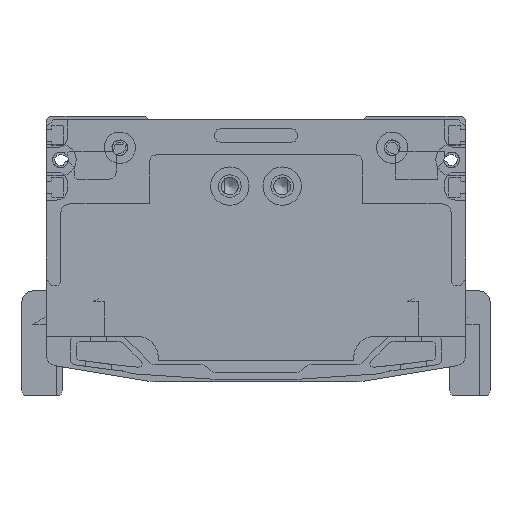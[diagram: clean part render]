
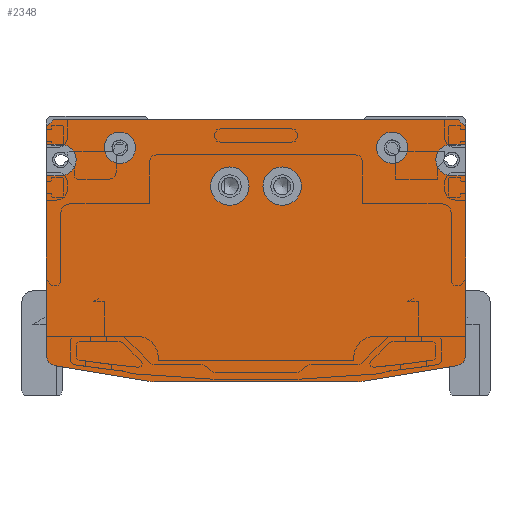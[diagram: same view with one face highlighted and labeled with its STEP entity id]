
A CAD part, front view. The second image highlights one B-rep face of the part: STEP entity #2348.
In plain terms, the highlighted planar face has unit normal (0, -1, 0).
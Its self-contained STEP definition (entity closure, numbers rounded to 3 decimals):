
#1226=FACE_BOUND('',#4446,.T.);
#1227=FACE_BOUND('',#4447,.T.);
#1228=FACE_BOUND('',#4448,.T.);
#1229=FACE_BOUND('',#4449,.T.);
#1230=FACE_BOUND('',#4450,.T.);
#2348=ADVANCED_FACE('',(#1226,#1227,#1228,#1229,#1230),#3084,.F.);
#3084=PLANE('',#18434);
#4446=EDGE_LOOP('',(#10134));
#4447=EDGE_LOOP('',(#10135));
#4448=EDGE_LOOP('',(#10136,#10137,#10138,#10139,#10140,#10141,#10142,#10143,
#10144,#10145,#10146,#10147,#10148,#10149,#10150,#10151,#10152,#10153,#10154,
#10155));
#4449=EDGE_LOOP('',(#10156));
#4450=EDGE_LOOP('',(#10157));
#5707=LINE('',#27159,#6874);
#5711=LINE('',#27167,#6878);
#5842=LINE('',#28103,#7009);
#5867=LINE('',#28151,#7034);
#5871=LINE('',#28159,#7038);
#6045=LINE('',#29306,#7212);
#6047=LINE('',#29309,#7214);
#6051=LINE('',#29316,#7218);
#6054=LINE('',#29325,#7221);
#6067=LINE('',#29360,#7234);
#6072=LINE('',#29374,#7239);
#6076=LINE('',#29386,#7243);
#6098=LINE('',#29448,#7265);
#6101=LINE('',#29457,#7268);
#6874=VECTOR('',#20797,1.);
#6878=VECTOR('',#20801,1.);
#7009=VECTOR('',#21242,1.);
#7034=VECTOR('',#21281,1.);
#7038=VECTOR('',#21285,1.);
#7212=VECTOR('',#22045,1.);
#7214=VECTOR('',#22049,1.);
#7218=VECTOR('',#22055,1.);
#7221=VECTOR('',#22066,1.);
#7234=VECTOR('',#22099,1.);
#7239=VECTOR('',#22112,1.);
#7243=VECTOR('',#22124,1.);
#7265=VECTOR('',#22200,1.);
#7268=VECTOR('',#22211,1.);
#10134=ORIENTED_EDGE('',*,*,#15570,.T.);
#10135=ORIENTED_EDGE('',*,*,#15574,.T.);
#10136=ORIENTED_EDGE('',*,*,#15635,.T.);
#10137=ORIENTED_EDGE('',*,*,#15631,.F.);
#10138=ORIENTED_EDGE('',*,*,#15629,.F.);
#10139=ORIENTED_EDGE('',*,*,#15626,.F.);
#10140=ORIENTED_EDGE('',*,*,#15622,.T.);
#10141=ORIENTED_EDGE('',*,*,#15619,.T.);
#10142=ORIENTED_EDGE('',*,*,#15276,.F.);
#10143=ORIENTED_EDGE('',*,*,#15605,.T.);
#10144=ORIENTED_EDGE('',*,*,#15602,.T.);
#10145=ORIENTED_EDGE('',*,*,#15600,.F.);
#10146=ORIENTED_EDGE('',*,*,#15272,.F.);
#10147=ORIENTED_EDGE('',*,*,#15596,.T.);
#10148=ORIENTED_EDGE('',*,*,#15247,.F.);
#10149=ORIENTED_EDGE('',*,*,#15594,.T.);
#10150=ORIENTED_EDGE('',*,*,#14983,.F.);
#10151=ORIENTED_EDGE('',*,*,#15670,.T.);
#10152=ORIENTED_EDGE('',*,*,#15667,.T.);
#10153=ORIENTED_EDGE('',*,*,#15665,.F.);
#10154=ORIENTED_EDGE('',*,*,#14979,.F.);
#10155=ORIENTED_EDGE('',*,*,#15638,.T.);
#10156=ORIENTED_EDGE('',*,*,#15581,.F.);
#10157=ORIENTED_EDGE('',*,*,#15577,.F.);
#13084=VERTEX_POINT('',#27158);
#13085=VERTEX_POINT('',#27160);
#13088=VERTEX_POINT('',#27166);
#13089=VERTEX_POINT('',#27168);
#13218=VERTEX_POINT('',#28102);
#13219=VERTEX_POINT('',#28104);
#13234=VERTEX_POINT('',#28150);
#13235=VERTEX_POINT('',#28152);
#13238=VERTEX_POINT('',#28158);
#13239=VERTEX_POINT('',#28160);
#13438=VERTEX_POINT('',#29249);
#13442=VERTEX_POINT('',#29260);
#13445=VERTEX_POINT('',#29269);
#13448=VERTEX_POINT('',#29279);
#13456=VERTEX_POINT('',#29314);
#13458=VERTEX_POINT('',#29321);
#13469=VERTEX_POINT('',#29355);
#13471=VERTEX_POINT('',#29361);
#13474=VERTEX_POINT('',#29369);
#13476=VERTEX_POINT('',#29375);
#13477=VERTEX_POINT('',#29379);
#13480=VERTEX_POINT('',#29387);
#13492=VERTEX_POINT('',#29446);
#13494=VERTEX_POINT('',#29453);
#14979=EDGE_CURVE('',#13084,#13085,#5707,.T.);
#14983=EDGE_CURVE('',#13088,#13089,#5711,.T.);
#15247=EDGE_CURVE('',#13218,#13219,#5842,.T.);
#15272=EDGE_CURVE('',#13234,#13235,#5867,.T.);
#15276=EDGE_CURVE('',#13238,#13239,#5871,.T.);
#15570=EDGE_CURVE('',#13438,#13438,#16956,.T.);
#15574=EDGE_CURVE('',#13442,#13442,#16960,.T.);
#15577=EDGE_CURVE('',#13445,#13445,#16963,.T.);
#15581=EDGE_CURVE('',#13448,#13448,#16967,.T.);
#15594=EDGE_CURVE('',#13218,#13089,#6045,.T.);
#15596=EDGE_CURVE('',#13234,#13219,#6047,.T.);
#15600=EDGE_CURVE('',#13235,#13456,#6051,.T.);
#15602=EDGE_CURVE('',#13458,#13456,#16974,.T.);
#15605=EDGE_CURVE('',#13238,#13458,#6054,.T.);
#15619=EDGE_CURVE('',#13469,#13239,#16977,.T.);
#15622=EDGE_CURVE('',#13471,#13469,#6067,.T.);
#15626=EDGE_CURVE('',#13471,#13474,#16980,.T.);
#15629=EDGE_CURVE('',#13474,#13476,#6072,.T.);
#15631=EDGE_CURVE('',#13476,#13477,#16981,.T.);
#15635=EDGE_CURVE('',#13480,#13477,#6076,.T.);
#15638=EDGE_CURVE('',#13084,#13480,#16984,.T.);
#15665=EDGE_CURVE('',#13085,#13492,#6098,.T.);
#15667=EDGE_CURVE('',#13494,#13492,#16992,.T.);
#15670=EDGE_CURVE('',#13088,#13494,#6101,.T.);
#16956=CIRCLE('',#18335,5.5);
#16960=CIRCLE('',#18342,5.5);
#16963=CIRCLE('',#18348,4.5);
#16967=CIRCLE('',#18355,4.5);
#16974=CIRCLE('',#18373,4.5);
#16977=CIRCLE('',#18382,3.);
#16980=CIRCLE('',#18387,10.);
#16981=CIRCLE('',#18390,10.);
#16984=CIRCLE('',#18395,3.);
#16992=CIRCLE('',#18422,4.5);
#18335=AXIS2_PLACEMENT_3D('',#29248,#21970,#21971);
#18342=AXIS2_PLACEMENT_3D('',#29259,#21984,#21985);
#18348=AXIS2_PLACEMENT_3D('',#29268,#21996,#21997);
#18355=AXIS2_PLACEMENT_3D('',#29278,#22010,#22011);
#18373=AXIS2_PLACEMENT_3D('',#29320,#22060,#22061);
#18382=AXIS2_PLACEMENT_3D('',#29354,#22092,#22093);
#18387=AXIS2_PLACEMENT_3D('',#29368,#22106,#22107);
#18390=AXIS2_PLACEMENT_3D('',#29378,#22116,#22117);
#18395=AXIS2_PLACEMENT_3D('',#29391,#22130,#22131);
#18422=AXIS2_PLACEMENT_3D('',#29452,#22205,#22206);
#18434=AXIS2_PLACEMENT_3D('',#29474,#22236,#22237);
#20797=DIRECTION('',(0.,0.,1.));
#20801=DIRECTION('',(0.,0.,1.));
#21242=DIRECTION('',(1.,0.,0.));
#21281=DIRECTION('',(0.,0.,-1.));
#21285=DIRECTION('',(0.,0.,-1.));
#21970=DIRECTION('',(0.,1.,0.));
#21971=DIRECTION('',(1.,0.,0.));
#21984=DIRECTION('',(0.,1.,0.));
#21985=DIRECTION('',(1.,0.,0.));
#21996=DIRECTION('',(0.,-1.,0.));
#21997=DIRECTION('',(1.,0.,0.));
#22010=DIRECTION('',(0.,-1.,0.));
#22011=DIRECTION('',(1.,0.,0.));
#22045=DIRECTION('',(-0.707,0.,-0.707));
#22049=DIRECTION('',(-0.707,0.,0.707));
#22055=DIRECTION('',(-1.,0.,0.));
#22060=DIRECTION('',(0.,1.,0.));
#22061=DIRECTION('',(0.,0.,-1.));
#22066=DIRECTION('',(-1.,0.,0.));
#22092=DIRECTION('',(0.,-1.,0.));
#22093=DIRECTION('',(0.164,0.,-0.986));
#22099=DIRECTION('',(0.986,0.,0.164));
#22106=DIRECTION('',(0.,1.,0.));
#22107=DIRECTION('',(0.164,0.,-0.986));
#22112=DIRECTION('',(-1.,0.,0.));
#22116=DIRECTION('',(0.,1.,0.));
#22117=DIRECTION('',(0.,0.,-1.));
#22124=DIRECTION('',(0.986,0.,-0.164));
#22130=DIRECTION('',(0.,-1.,0.));
#22131=DIRECTION('',(-1.,0.,0.));
#22200=DIRECTION('',(1.,0.,0.));
#22205=DIRECTION('',(0.,1.,0.));
#22206=DIRECTION('',(0.,0.,1.));
#22211=DIRECTION('',(1.,0.,0.));
#22236=DIRECTION('',(0.,1.,0.));
#22237=DIRECTION('',(-1.,0.,0.));
#27158=CARTESIAN_POINT('',(-60.,-2612.,-69.459));
#27159=CARTESIAN_POINT('',(-60.,-2612.,-69.459));
#27160=CARTESIAN_POINT('',(-60.,-2612.,-18.));
#27166=CARTESIAN_POINT('',(-60.,-2612.,-9.));
#27167=CARTESIAN_POINT('',(-60.,-2612.,-9.));
#27168=CARTESIAN_POINT('',(-60.,-2612.,-4.));
#28102=CARTESIAN_POINT('',(-58.,-2612.,-2.));
#28103=CARTESIAN_POINT('',(-58.,-2612.,-2.));
#28104=CARTESIAN_POINT('',(58.,-2612.,-2.));
#28150=CARTESIAN_POINT('',(60.,-2612.,-4.));
#28151=CARTESIAN_POINT('',(60.,-2612.,-4.));
#28152=CARTESIAN_POINT('',(60.,-2612.,-9.));
#28158=CARTESIAN_POINT('',(60.,-2612.,-18.));
#28159=CARTESIAN_POINT('',(60.,-2612.,-18.));
#28160=CARTESIAN_POINT('',(60.,-2612.,-69.459));
#29248=CARTESIAN_POINT('',(7.5,-2612.,-21.));
#29249=CARTESIAN_POINT('',(13.,-2612.,-21.));
#29259=CARTESIAN_POINT('',(-7.5,-2612.,-21.));
#29260=CARTESIAN_POINT('',(-2.,-2612.,-21.));
#29268=CARTESIAN_POINT('',(-39.,-2612.,-10.));
#29269=CARTESIAN_POINT('',(-34.5,-2612.,-10.));
#29278=CARTESIAN_POINT('',(39.,-2612.,-10.));
#29279=CARTESIAN_POINT('',(43.5,-2612.,-10.));
#29306=CARTESIAN_POINT('',(-58.,-2612.,-2.));
#29309=CARTESIAN_POINT('',(60.,-2612.,-4.));
#29314=CARTESIAN_POINT('',(56.,-2612.,-9.));
#29316=CARTESIAN_POINT('',(60.,-2612.,-9.));
#29320=CARTESIAN_POINT('',(56.,-2612.,-13.5));
#29321=CARTESIAN_POINT('',(56.,-2612.,-18.));
#29325=CARTESIAN_POINT('',(60.,-2612.,-18.));
#29354=CARTESIAN_POINT('',(57.,-2612.,-69.459));
#29355=CARTESIAN_POINT('',(57.493,-2612.,-72.418));
#29360=CARTESIAN_POINT('',(30.816,-2612.,-76.864));
#29361=CARTESIAN_POINT('',(30.816,-2612.,-76.864));
#29368=CARTESIAN_POINT('',(29.172,-2612.,-67.));
#29369=CARTESIAN_POINT('',(29.172,-2612.,-77.));
#29374=CARTESIAN_POINT('',(29.172,-2612.,-77.));
#29375=CARTESIAN_POINT('',(-29.172,-2612.,-77.));
#29378=CARTESIAN_POINT('',(-29.172,-2612.,-67.));
#29379=CARTESIAN_POINT('',(-30.816,-2612.,-76.864));
#29386=CARTESIAN_POINT('',(-57.493,-2612.,-72.418));
#29387=CARTESIAN_POINT('',(-57.493,-2612.,-72.418));
#29391=CARTESIAN_POINT('',(-57.,-2612.,-69.459));
#29446=CARTESIAN_POINT('',(-56.,-2612.,-18.));
#29448=CARTESIAN_POINT('',(-60.,-2612.,-18.));
#29452=CARTESIAN_POINT('',(-56.,-2612.,-13.5));
#29453=CARTESIAN_POINT('',(-56.,-2612.,-9.));
#29457=CARTESIAN_POINT('',(-60.,-2612.,-9.));
#29474=CARTESIAN_POINT('',(0.,-2612.,-2.));
